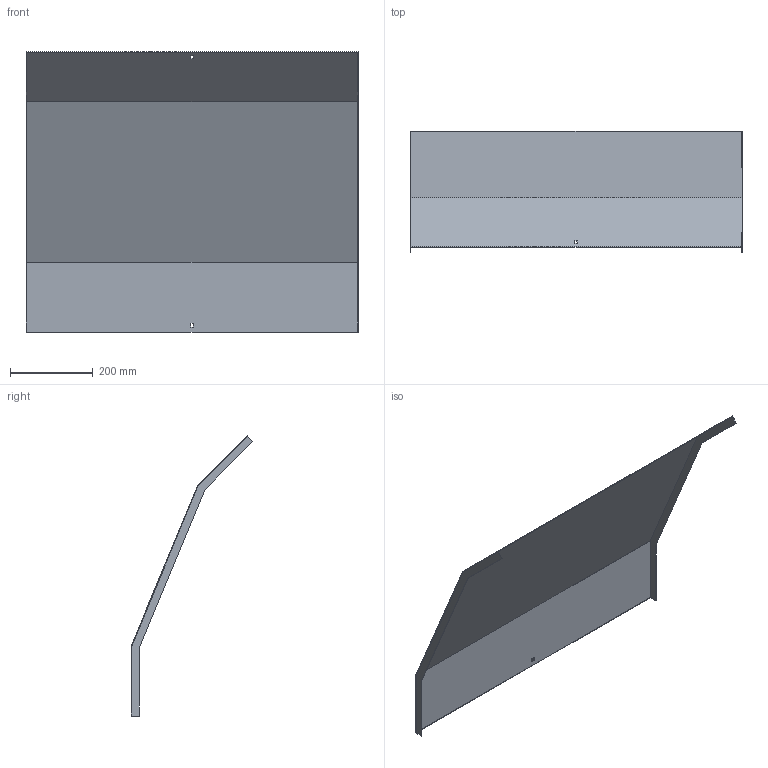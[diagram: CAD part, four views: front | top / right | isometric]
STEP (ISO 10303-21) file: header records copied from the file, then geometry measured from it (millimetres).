
FILE_DESCRIPTION (( 'STEP AP214' ), '1' );
FILE_NAME ('34N5C800.step', '2025-02-21T10:32:54', ( '' ), ( '' ), 'SwSTEP 2.0', 'SolidWorks 2023', '' );
FILE_SCHEMA (( 'AUTOMOTIVE_DESIGN' ));
Length unit declared in the file: millimetre
Products named in the file (1): 34N5C800
Bounding box: 803 x 294.72 x 677.38 mm (x, y, z)
Volume: 954861.4 mm3; surface area: 1277992.3 mm2
Topology: 1 solids, 1 shells, 26 faces, 72 edges, 48 vertices
Faces by surface type: plane 26
Entity records: 847 total; most frequent: CARTESIAN_POINT 147, ORIENTED_EDGE 144, DIRECTION 126, LINE 72, VECTOR 72, EDGE_CURVE 72, VERTEX_POINT 48, EDGE_LOOP 30
